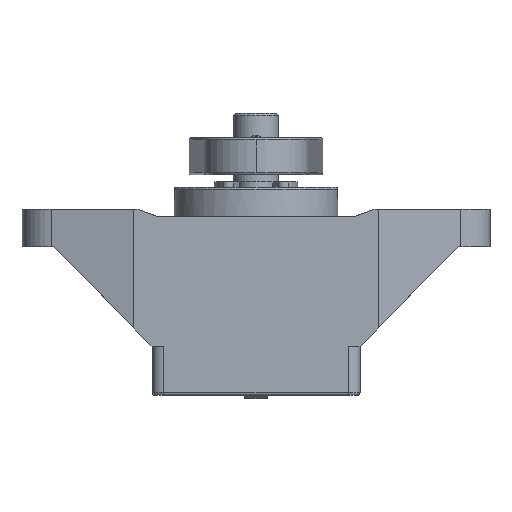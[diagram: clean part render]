
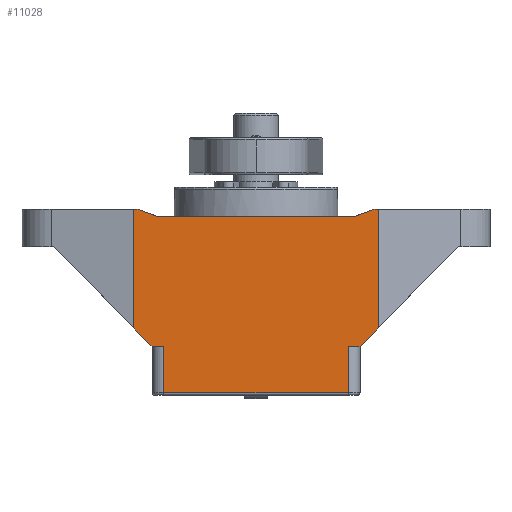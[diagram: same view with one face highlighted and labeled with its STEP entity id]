
A CAD part, front view. The second image highlights one B-rep face of the part: STEP entity #11028.
In plain terms, the highlighted planar face has unit normal (0, -1, 0).
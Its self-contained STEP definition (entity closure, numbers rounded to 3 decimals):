
#252 = LINE ( 'NONE', #4897, #27194 ) ;
#455 = ORIENTED_EDGE ( 'NONE', *, *, #16498, .F. ) ;
#1006 = VECTOR ( 'NONE', #7853, 1000. ) ;
#1024 = VECTOR ( 'NONE', #10159, 1000. ) ;
#1044 = VERTEX_POINT ( 'NONE', #16826 ) ;
#1089 = FACE_OUTER_BOUND ( 'NONE', #24142, .T. ) ;
#1228 = CARTESIAN_POINT ( 'NONE',  ( 16.5, -13., -18.943 ) ) ;
#1320 = EDGE_CURVE ( 'NONE', #20740, #27341, #18067, .T. ) ;
#1361 = ORIENTED_EDGE ( 'NONE', *, *, #7425, .F. ) ;
#1458 = CARTESIAN_POINT ( 'NONE',  ( -14., -13., -21.5 ) ) ;
#2016 = CARTESIAN_POINT ( 'NONE',  ( -12.4, -13., -27.7 ) ) ;
#2582 = VECTOR ( 'NONE', #7369, 1000. ) ;
#2653 = DIRECTION ( 'NONE',  ( 1., 0., 0. ) ) ;
#2854 = EDGE_CURVE ( 'NONE', #1044, #19552, #3500, .T. ) ;
#2856 = DIRECTION ( 'NONE',  ( 0., 0., -1. ) ) ;
#3500 = LINE ( 'NONE', #27121, #1006 ) ;
#4024 = EDGE_CURVE ( 'NONE', #19552, #21901, #252, .T. ) ;
#4303 = CARTESIAN_POINT ( 'NONE',  ( -16.5, -13., -18.943 ) ) ;
#4411 = VERTEX_POINT ( 'NONE', #24253 ) ;
#4433 = VECTOR ( 'NONE', #5210, 1000. ) ;
#4699 = CARTESIAN_POINT ( 'NONE',  ( 12.4, -13., -21.5 ) ) ;
#4897 = CARTESIAN_POINT ( 'NONE',  ( -8.9, -13., -4. ) ) ;
#4956 = ORIENTED_EDGE ( 'NONE', *, *, #10587, .F. ) ;
#4973 = EDGE_CURVE ( 'NONE', #22007, #4411, #21217, .T. ) ;
#5025 = VECTOR ( 'NONE', #5699, 1000. ) ;
#5210 = DIRECTION ( 'NONE',  ( -0.699, 0., 0.715 ) ) ;
#5515 = CARTESIAN_POINT ( 'NONE',  ( -16.5, -13., -3. ) ) ;
#5557 = DIRECTION ( 'NONE',  ( 1., 0., 0. ) ) ;
#5699 = DIRECTION ( 'NONE',  ( 1., 0., 0. ) ) ;
#5837 = ORIENTED_EDGE ( 'NONE', *, *, #4973, .T. ) ;
#5849 = ORIENTED_EDGE ( 'NONE', *, *, #1320, .F. ) ;
#5963 = EDGE_CURVE ( 'NONE', #9938, #23819, #20726, .T. ) ;
#6306 = VERTEX_POINT ( 'NONE', #5515 ) ;
#6359 = CARTESIAN_POINT ( 'NONE',  ( 12.4, -13., -27.7 ) ) ;
#6491 = LINE ( 'NONE', #6359, #9415 ) ;
#7288 = CARTESIAN_POINT ( 'NONE',  ( -14., -13., -21.5 ) ) ;
#7369 = DIRECTION ( 'NONE',  ( -1., 0., 0. ) ) ;
#7425 = EDGE_CURVE ( 'NONE', #21901, #19884, #20929, .T. ) ;
#7495 = CARTESIAN_POINT ( 'NONE',  ( 14., -13., -21.5 ) ) ;
#7853 = DIRECTION ( 'NONE',  ( 0.94, 0., -0.342 ) ) ;
#7861 = CARTESIAN_POINT ( 'NONE',  ( 15.883, -13., -3. ) ) ;
#8702 = DIRECTION ( 'NONE',  ( 0., 0., 1. ) ) ;
#8886 = VECTOR ( 'NONE', #5557, 1000. ) ;
#9357 = ORIENTED_EDGE ( 'NONE', *, *, #4024, .F. ) ;
#9415 = VECTOR ( 'NONE', #23069, 1000. ) ;
#9667 = CARTESIAN_POINT ( 'NONE',  ( -14., -13., -28. ) ) ;
#9837 = ORIENTED_EDGE ( 'NONE', *, *, #5963, .F. ) ;
#9938 = VERTEX_POINT ( 'NONE', #19467 ) ;
#10159 = DIRECTION ( 'NONE',  ( 0., 0., -1. ) ) ;
#10275 = CARTESIAN_POINT ( 'NONE',  ( -13.136, -13., -4. ) ) ;
#10327 = LINE ( 'NONE', #18929, #20355 ) ;
#10587 = EDGE_CURVE ( 'NONE', #22007, #20740, #11944, .T. ) ;
#10627 = VECTOR ( 'NONE', #27185, 1000. ) ;
#11028 = ADVANCED_FACE ( 'NONE', ( #1089 ), #11493, .T. ) ;
#11156 = CARTESIAN_POINT ( 'NONE',  ( 12.4, -13., -27.7 ) ) ;
#11184 = VERTEX_POINT ( 'NONE', #11156 ) ;
#11385 = CARTESIAN_POINT ( 'NONE',  ( 14., -13., -21.5 ) ) ;
#11493 = PLANE ( 'NONE',  #23776 ) ;
#11944 = LINE ( 'NONE', #24741, #19723 ) ;
#12278 = LINE ( 'NONE', #24788, #1024 ) ;
#12294 = CARTESIAN_POINT ( 'NONE',  ( 14., -13., -3. ) ) ;
#12766 = ORIENTED_EDGE ( 'NONE', *, *, #24727, .T. ) ;
#13772 = ORIENTED_EDGE ( 'NONE', *, *, #14982, .F. ) ;
#14982 = EDGE_CURVE ( 'NONE', #27341, #11184, #12278, .T. ) ;
#15904 = LINE ( 'NONE', #20255, #4433 ) ;
#16498 = EDGE_CURVE ( 'NONE', #25976, #6306, #10327, .T. ) ;
#16691 = CARTESIAN_POINT ( 'NONE',  ( 15.883, -13., -3. ) ) ;
#16805 = ORIENTED_EDGE ( 'NONE', *, *, #23433, .F. ) ;
#16826 = CARTESIAN_POINT ( 'NONE',  ( -15.883, -13., -3. ) ) ;
#17345 = CARTESIAN_POINT ( 'NONE',  ( -12.4, -13., -19.237 ) ) ;
#17880 = DIRECTION ( 'NONE',  ( -0.699, 0., -0.715 ) ) ;
#18067 = LINE ( 'NONE', #7495, #2582 ) ;
#18799 = VECTOR ( 'NONE', #8702, 1000. ) ;
#18929 = CARTESIAN_POINT ( 'NONE',  ( -16.5, -13., -8. ) ) ;
#19179 = ORIENTED_EDGE ( 'NONE', *, *, #19297, .T. ) ;
#19185 = VERTEX_POINT ( 'NONE', #2016 ) ;
#19297 = EDGE_CURVE ( 'NONE', #9938, #19185, #26313, .T. ) ;
#19467 = CARTESIAN_POINT ( 'NONE',  ( -12.4, -13., -21.5 ) ) ;
#19552 = VERTEX_POINT ( 'NONE', #10275 ) ;
#19723 = VECTOR ( 'NONE', #17880, 1000. ) ;
#19884 = VERTEX_POINT ( 'NONE', #16691 ) ;
#20080 = DIRECTION ( 'NONE',  ( 0., -1., 0. ) ) ;
#20255 = CARTESIAN_POINT ( 'NONE',  ( -14., -13., -21.5 ) ) ;
#20355 = VECTOR ( 'NONE', #27488, 1000. ) ;
#20726 = LINE ( 'NONE', #1458, #10627 ) ;
#20740 = VERTEX_POINT ( 'NONE', #11385 ) ;
#20929 = LINE ( 'NONE', #7861, #21893 ) ;
#20945 = VECTOR ( 'NONE', #2856, 1000. ) ;
#21217 = LINE ( 'NONE', #21631, #18799 ) ;
#21631 = CARTESIAN_POINT ( 'NONE',  ( 16.5, -13., -8. ) ) ;
#21893 = VECTOR ( 'NONE', #23161, 1000. ) ;
#21901 = VERTEX_POINT ( 'NONE', #24151 ) ;
#22007 = VERTEX_POINT ( 'NONE', #1228 ) ;
#22021 = ORIENTED_EDGE ( 'NONE', *, *, #27113, .F. ) ;
#22964 = LINE ( 'NONE', #12294, #8886 ) ;
#22966 = ORIENTED_EDGE ( 'NONE', *, *, #2854, .F. ) ;
#23069 = DIRECTION ( 'NONE',  ( 1., 0., 0. ) ) ;
#23137 = EDGE_CURVE ( 'NONE', #19884, #4411, #22964, .T. ) ;
#23161 = DIRECTION ( 'NONE',  ( 0.94, 0., 0.342 ) ) ;
#23433 = EDGE_CURVE ( 'NONE', #23819, #25976, #15904, .T. ) ;
#23776 = AXIS2_PLACEMENT_3D ( 'NONE', #9667, #20080, #26541 ) ;
#23819 = VERTEX_POINT ( 'NONE', #7288 ) ;
#24142 = EDGE_LOOP ( 'NONE', ( #19179, #12766, #13772, #5849, #4956, #5837, #24957, #1361, #9357, #22966, #22021, #455, #16805, #9837 ) ) ;
#24151 = CARTESIAN_POINT ( 'NONE',  ( 13.136, -13., -4. ) ) ;
#24253 = CARTESIAN_POINT ( 'NONE',  ( 16.5, -13., -3. ) ) ;
#24727 = EDGE_CURVE ( 'NONE', #19185, #11184, #6491, .T. ) ;
#24741 = CARTESIAN_POINT ( 'NONE',  ( 14., -13., -21.5 ) ) ;
#24788 = CARTESIAN_POINT ( 'NONE',  ( 12.4, -13., -19.237 ) ) ;
#24952 = LINE ( 'NONE', #26783, #5025 ) ;
#24957 = ORIENTED_EDGE ( 'NONE', *, *, #23137, .F. ) ;
#25976 = VERTEX_POINT ( 'NONE', #4303 ) ;
#26313 = LINE ( 'NONE', #17345, #20945 ) ;
#26541 = DIRECTION ( 'NONE',  ( 0., 0., -1. ) ) ;
#26783 = CARTESIAN_POINT ( 'NONE',  ( -14., -13., -3. ) ) ;
#27113 = EDGE_CURVE ( 'NONE', #6306, #1044, #24952, .T. ) ;
#27121 = CARTESIAN_POINT ( 'NONE',  ( -15.883, -13., -3. ) ) ;
#27185 = DIRECTION ( 'NONE',  ( -1., 0., 0. ) ) ;
#27194 = VECTOR ( 'NONE', #2653, 1000. ) ;
#27341 = VERTEX_POINT ( 'NONE', #4699 ) ;
#27488 = DIRECTION ( 'NONE',  ( 0., 0., 1. ) ) ;
